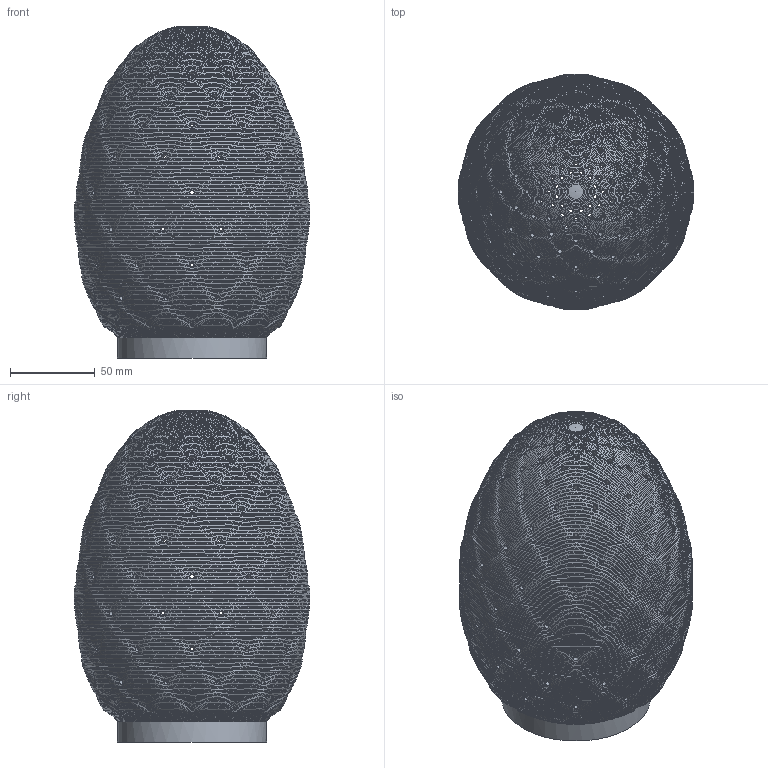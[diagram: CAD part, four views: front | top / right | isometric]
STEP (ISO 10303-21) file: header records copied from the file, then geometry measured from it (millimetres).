
FILE_DESCRIPTION(('Open CASCADE Model'),'2;1');
FILE_NAME('Open CASCADE Shape Model','2026-11-16T16:42:20',('Author'),( 'Open CASCADE'),'Open CASCADE STEP processor 7.9','Open CASCADE 7.9' ,'Unknown');
FILE_SCHEMA(('AUTOMOTIVE_DESIGN { 1 0 10303 214 1 1 1 1 }'));
Products named in the file (1): Open CASCADE STEP translator 7.9 1
Bounding box: 139.54 x 139.53 x 196.32 mm (x, y, z)
Volume: 292720.8 mm3; surface area: 150690.1 mm2
Topology: 1 solids, 1 shells, 750 faces, 2511 edges, 1601 vertices
Faces by surface type: bspline 588, cylinder 158, revolution 2, plane 2
Full cylindrical faces by diameter (mm): 2.616 x156, 84.922 x1, 88.141 x1
Entity records: 1087667 total; most frequent: CARTESIAN_POINT 1054324, B_SPLINE_CURVE_WITH_KNOTS 7363, ORIENTED_EDGE 5018, PCURVE 5018, DEFINITIONAL_REPRESENTATION 5018, EDGE_CURVE 2509, SURFACE_CURVE 2103, VERTEX_POINT 1601
